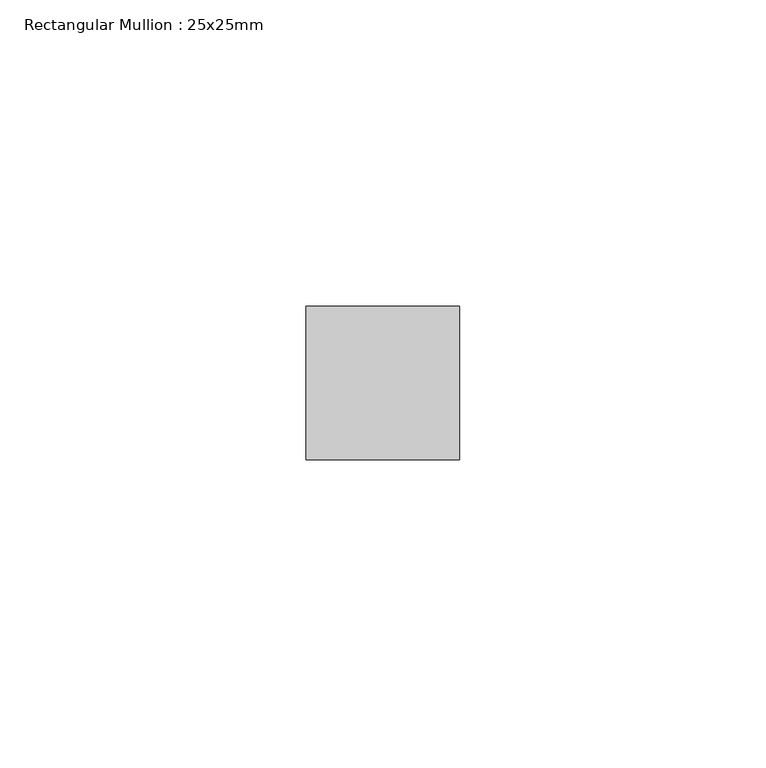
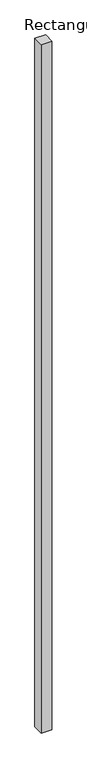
"""IFC4 building model written with IfcOpenShell, lengths in millimetres: member geometry, Rectangular Mullion : 25x25mm."""

from ifc_helpers import new_model, si_unit, frame, origin, place, context, project, spatial, polyline, outline, extrude, source, transform, mapped, element, save


def rectangular_mullion_25x25mm_a4c1269f(model_context):
    return source(origin(), model_context, "Body", "SweptSolid", [
        extrude(outline(polyline([(0.0, 24.5), (0.0, -0.5), (-25.0, -0.5), (-25.0, 24.5), (0.0, 24.5)])), frame((0.0, 0.0, -1690.0), z_axis=(0.0, 0.0, 1.0), x_axis=(1.0, 0.0, 0.0)), (0.0, 0.0, 1.0), 1690.0),
    ])


if __name__ == "__main__":
    model = new_model("IFC4")
    model_context = context("Model", 3, world=origin())
    ifc_project = project(units=[si_unit("LENGTHUNIT", "METRE", prefix="MILLI")], contexts=[model_context])
    site = spatial("IfcSite", under=ifc_project)
    building = spatial("IfcBuilding", under=site)
    placement = place(None, origin())
    rectangular_mullion_25x25mm_shape = rectangular_mullion_25x25mm_a4c1269f(model_context)
    element("IfcMember", 1, ObjectType="Rectangular Mullion : 25x25mm", at=placement, inside=building, context=model_context, shape_type="MappedRepresentation", body=[
        mapped(rectangular_mullion_25x25mm_shape, transform((0.0, 0.0, 0.0), x_axis=(1.0, 0.0, 0.0), y_axis=(0.0, 1.0, 0.0), z_axis=(0.0, 0.0, 1.0))),
    ])
    save(model, "model.ifc")
